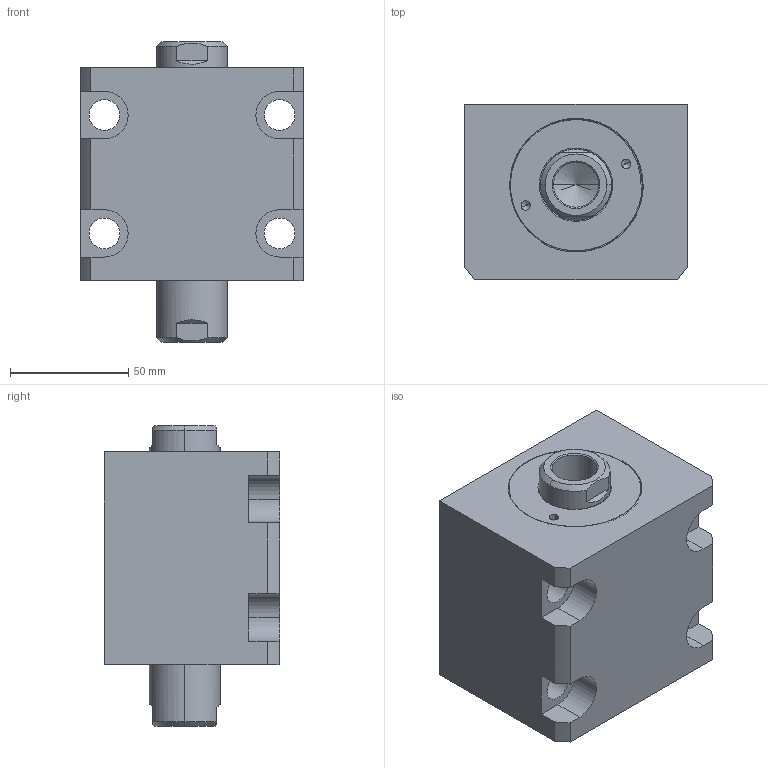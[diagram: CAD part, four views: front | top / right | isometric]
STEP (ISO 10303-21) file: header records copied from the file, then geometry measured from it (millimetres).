
FILE_DESCRIPTION (( 'STEP AP203' ), '1' );
FILE_NAME ('CHTB-LWM50-15N.STEP', '2018-05-22T08:53:37', ( '' ), ( '' ), 'SwSTEP 2.0', 'SolidWorks 2015', '' );
FILE_SCHEMA (( 'CONFIG_CONTROL_DESIGN' ));
Length unit declared in the file: millimetre
Products named in the file (4): 活塞杆LWM50-15N; CHTB-LWM50-15N; CHTM-SDMA50QG; 掛极LWM50-15N
Assembly tree (3 placements, depth 2):
  CHTB-LWM50-15N
    掛极LWM50-15N
    CHTM-SDMA50QG
    活塞杆LWM50-15N
Bounding box: 94 x 74 x 127 mm (x, y, z)
Volume: 558031.1 mm3; surface area: 102843.1 mm2
Topology: 3 solids, 3 shells, 201 faces, 539 edges, 354 vertices
Faces by surface type: cylinder 102, plane 47, cone 22, torus 16, bspline 14
Entity records: 11205 total; most frequent: CARTESIAN_POINT 5986, ORIENTED_EDGE 1062, DIRECTION 951, EDGE_CURVE 531, AXIS2_PLACEMENT_3D 380, VERTEX_POINT 354, EDGE_LOOP 235, FACE_OUTER_BOUND 201
